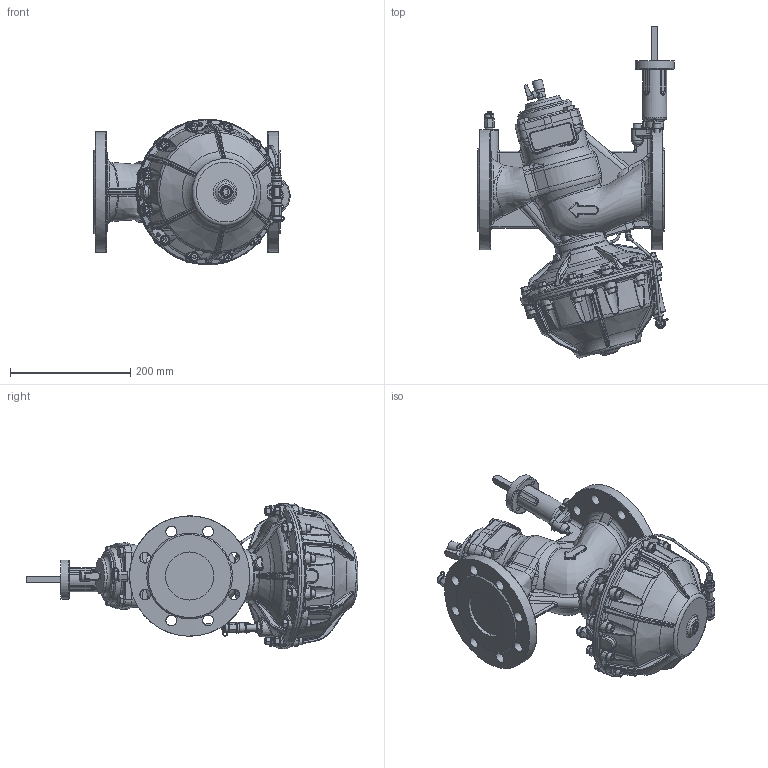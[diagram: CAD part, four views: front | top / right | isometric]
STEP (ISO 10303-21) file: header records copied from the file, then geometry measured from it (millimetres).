
FILE_DESCRIPTION (( 'STEP AP203' ), '1' );
FILE_NAME ('EKOFLUX.PI06516.STEP', '2017-12-18T06:59:27', ( 'dell2' ), ( 'Microsoft' ), 'SwSTEP 2.0', 'SolidWorks 2014', '' );
FILE_SCHEMA (( 'CONFIG_CONTROL_DESIGN' ));
Products named in the file (1): EKOFLUX.PI06516
Bounding box: 326.5 x 552.17 x 241.52 mm (x, y, z)
Volume: 9499231.1 mm3; surface area: 537667.4 mm2
Topology: 1 solids, 28 shells, 3330 faces, 7930 edges, 4676 vertices
Faces by surface type: bspline 1106, plane 873, cylinder 541, cone 479, torus 287, sphere 44
Full cylindrical faces by diameter (mm): 3.8 x4, 4 x9, 5.797 x2, 6.5 x5, 6.7 x5, 6.75 x3, 7.4 x2, 7.895 x1, 8 x16, 8.5 x17, 8.9 x2, 9 x4, 9.2 x2, 9.6 x1, 9.7 x3, 9.8 x4, 9.897 x2, 11.445 x1, 11.45 x2, 11.5 x4, 11.7 x1, 12 x1, 13 x15, 13.15 x1, 13.157 x3, 14 x1, 14.8 x1, 15 x3, 15.6 x1, 16 x5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
Entity records: 149310 total; most frequent: CARTESIAN_POINT 84155, ORIENTED_EDGE 14882, DIRECTION 11334, EDGE_CURVE 7441, AXIS2_PLACEMENT_3D 4836, VERTEX_POINT 4511, EDGE_LOOP 3758, FACE_OUTER_BOUND 3538
